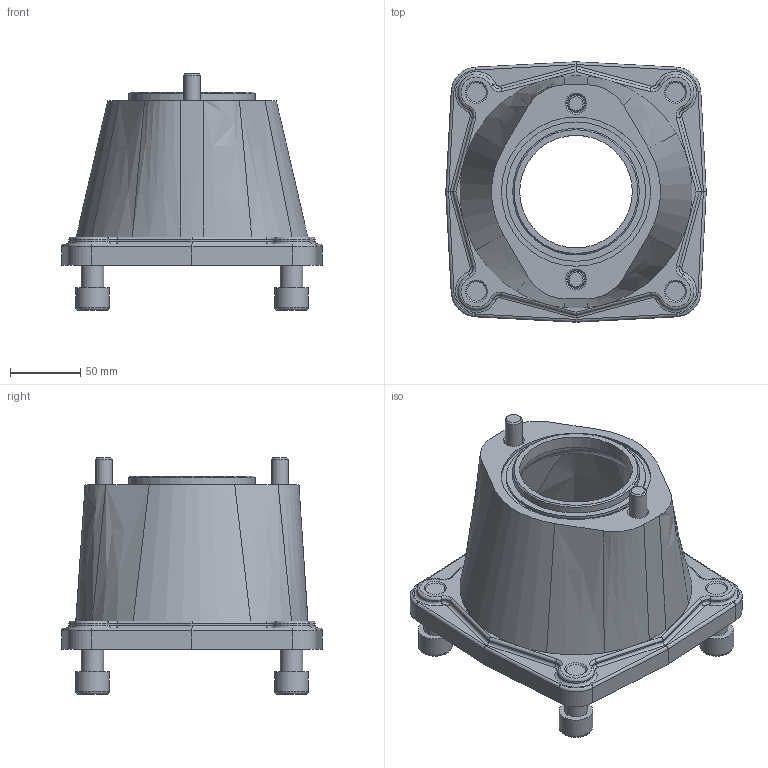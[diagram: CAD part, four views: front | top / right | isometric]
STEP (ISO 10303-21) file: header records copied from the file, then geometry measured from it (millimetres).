
FILE_DESCRIPTION(/* description */ (''),/* implementation_level */ '2;1');
FILE_NAME(/* name */ '3000020300_Semplifica_1.stp',/* time_stamp */ '2023-03-23T11:21:18+01:00',/* author */ ('marcop'),/* organization */ (''),/* preprocessor_version */ 'ST-DEVELOPER v19.2',/* originating_system */ 'Autodesk Inventor 2023',/* authorisation */ '');
FILE_SCHEMA (('AUTOMOTIVE_DESIGN { 1 0 10303 214 3 1 1 }'));
Length unit declared in the file: inch
Products named in the file (1): 3000020300_Semplifica_1
Bounding box: 185 x 185 x 168 mm (x, y, z)
Volume: 846926.4 mm3; surface area: 164901.7 mm2
Topology: 1 solids, 1 shells, 277 faces, 676 edges, 427 vertices
Faces by surface type: plane 122, cylinder 64, cone 44, torus 35, bspline 12
Full cylindrical faces by diameter (mm): 12 x2, 13 x2, 16 x4, 18 x2, 20 x2, 24 x4, 80 x1, 90 x1, 99 x1, 106 x1, 160 x1, 171 x1
Entity records: 8644 total; most frequent: CARTESIAN_POINT 1886, DIRECTION 1368, ORIENTED_EDGE 1340, EDGE_CURVE 670, AXIS2_PLACEMENT_3D 528, VERTEX_POINT 427, LINE 312, VECTOR 312
